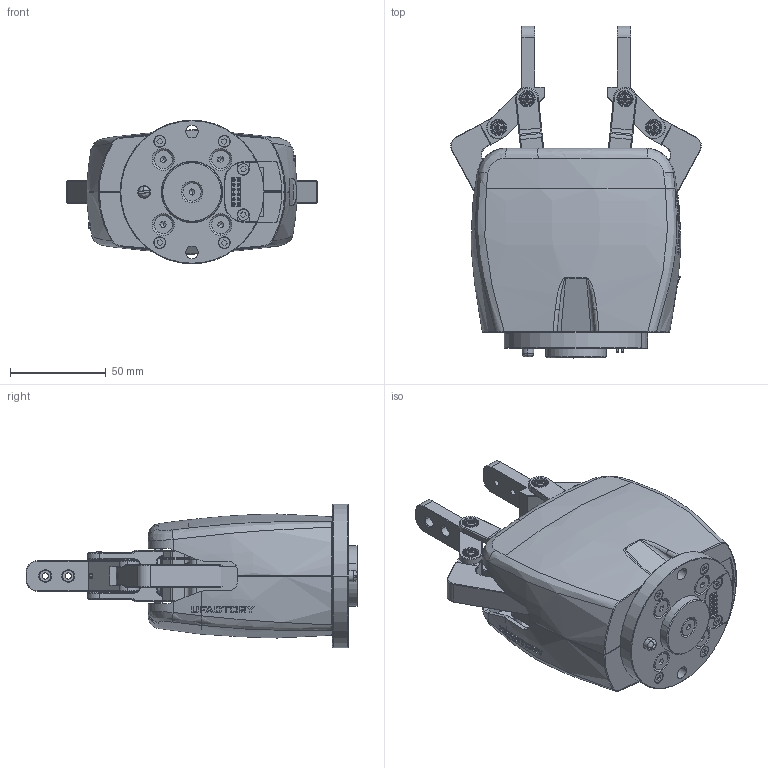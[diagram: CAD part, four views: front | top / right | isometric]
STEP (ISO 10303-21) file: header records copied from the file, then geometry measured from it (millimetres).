
FILE_DESCRIPTION (( 'STEP AP214' ), '1' );
FILE_NAME ('Gripper G2 AG1200 -without finger tips 20250721.STEP', '2025-07-21T03:06:47', ( '' ), ( '' ), 'SwSTEP 2.0', 'SolidWorks 2019', '' );
FILE_SCHEMA (( 'AUTOMOTIVE_DESIGN' ));
Length unit declared in the file: millimetre
Products named in the file (1): Gripper G2 AG1200 -without finger tips 20250721
Bounding box: 130.92 x 173.32 x 75 mm (x, y, z)
Volume: 366438.8 mm3; surface area: 165309.1 mm2
Topology: 177 solids, 183 shells, 3919 faces, 9839 edges, 6213 vertices
Faces by surface type: plane 1285, cylinder 1120, bspline 709, cone 408, sphere 221, torus 176
Entity records: 206248 total; most frequent: CARTESIAN_POINT 75479, ORIENTED_EDGE 18554, DIRECTION 16402, EDGE_CURVE 9277, AXIS2_PLACEMENT_3D 6359, VERTEX_POINT 5899, EDGE_LOOP 4282, UNCERTAINTY_MEASURE_WITH_UNIT 4098
